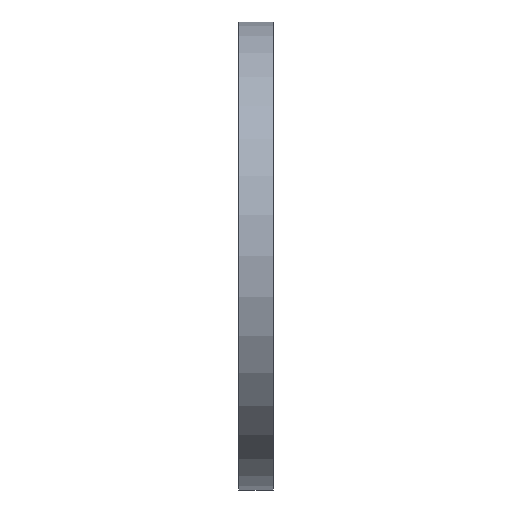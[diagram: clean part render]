
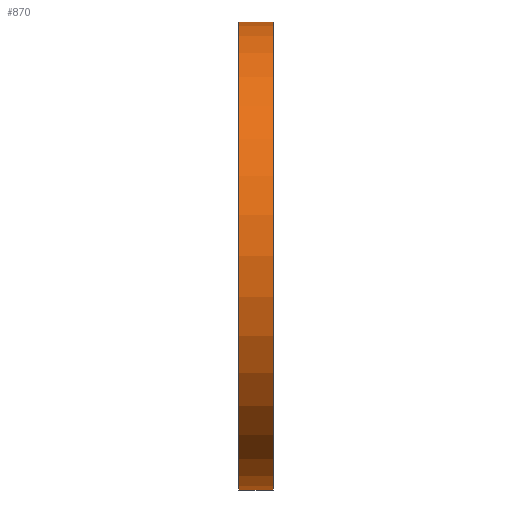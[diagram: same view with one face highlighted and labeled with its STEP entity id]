
A CAD part, left-side view. The second image highlights one B-rep face of the part: STEP entity #870.
In plain terms, the highlighted cylindrical face has radius 82.5 mm (diameter 165 mm), a partial arc.
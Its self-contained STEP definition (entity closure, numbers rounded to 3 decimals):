
#3 = VERTEX_POINT ( 'NONE', #625 ) ;
#55 = CARTESIAN_POINT ( 'NONE',  ( 0., 12., 0. ) ) ;
#57 = VERTEX_POINT ( 'NONE', #558 ) ;
#60 = ORIENTED_EDGE ( 'NONE', *, *, #224, .F. ) ;
#80 = CIRCLE ( 'NONE', #613, 82.5 ) ;
#109 = ORIENTED_EDGE ( 'NONE', *, *, #251, .T. ) ;
#133 = DIRECTION ( 'NONE',  ( 0., 0., -1. ) ) ;
#165 = LINE ( 'NONE', #528, #216 ) ;
#167 = EDGE_CURVE ( 'NONE', #377, #3, #80, .T. ) ;
#213 = CARTESIAN_POINT ( 'NONE',  ( 0., 0., 0. ) ) ;
#216 = VECTOR ( 'NONE', #871, 1000. ) ;
#224 = EDGE_CURVE ( 'NONE', #377, #838, #421, .T. ) ;
#251 = EDGE_CURVE ( 'NONE', #3, #57, #165, .T. ) ;
#256 = CARTESIAN_POINT ( 'NONE',  ( 0., 0., 82.5 ) ) ;
#268 = CARTESIAN_POINT ( 'NONE',  ( 0., 0., 0. ) ) ;
#291 = EDGE_LOOP ( 'NONE', ( #60, #409, #109, #338 ) ) ;
#338 = ORIENTED_EDGE ( 'NONE', *, *, #522, .F. ) ;
#364 = DIRECTION ( 'NONE',  ( 0., 0., -1. ) ) ;
#368 = DIRECTION ( 'NONE',  ( 0., -1., 0. ) ) ;
#377 = VERTEX_POINT ( 'NONE', #760 ) ;
#390 = AXIS2_PLACEMENT_3D ( 'NONE', #213, #571, #364 ) ;
#409 = ORIENTED_EDGE ( 'NONE', *, *, #167, .T. ) ;
#421 = LINE ( 'NONE', #711, #933 ) ;
#522 = EDGE_CURVE ( 'NONE', #838, #57, #630, .T. ) ;
#528 = CARTESIAN_POINT ( 'NONE',  ( 0., 0., -82.5 ) ) ;
#556 = DIRECTION ( 'NONE',  ( 0., 0., -1. ) ) ;
#558 = CARTESIAN_POINT ( 'NONE',  ( 0., 0., -82.5 ) ) ;
#571 = DIRECTION ( 'NONE',  ( 0., -1., 0. ) ) ;
#613 = AXIS2_PLACEMENT_3D ( 'NONE', #55, #368, #133 ) ;
#625 = CARTESIAN_POINT ( 'NONE',  ( 0., 12., -82.5 ) ) ;
#630 = CIRCLE ( 'NONE', #390, 82.5 ) ;
#684 = CYLINDRICAL_SURFACE ( 'NONE', #864, 82.5 ) ;
#711 = CARTESIAN_POINT ( 'NONE',  ( 0., 0., 82.5 ) ) ;
#719 = DIRECTION ( 'NONE',  ( 0., -1., 0. ) ) ;
#760 = CARTESIAN_POINT ( 'NONE',  ( 0., 12., 82.5 ) ) ;
#825 = DIRECTION ( 'NONE',  ( 0., -1., 0. ) ) ;
#838 = VERTEX_POINT ( 'NONE', #256 ) ;
#864 = AXIS2_PLACEMENT_3D ( 'NONE', #268, #825, #556 ) ;
#870 = ADVANCED_FACE ( 'NONE', ( #901 ), #684, .T. ) ;
#871 = DIRECTION ( 'NONE',  ( 0., -1., 0. ) ) ;
#901 = FACE_OUTER_BOUND ( 'NONE', #291, .T. ) ;
#933 = VECTOR ( 'NONE', #719, 1000. ) ;
